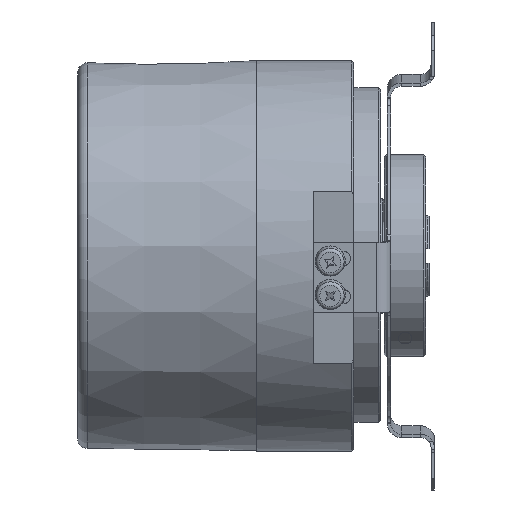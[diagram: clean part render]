
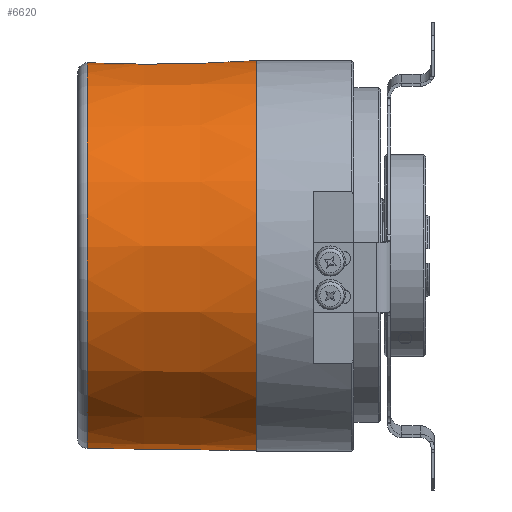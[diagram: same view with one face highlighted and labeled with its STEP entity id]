
A CAD part, front view. The second image highlights one B-rep face of the part: STEP entity #6620.
In plain terms, the highlighted conical face has half-angle 0.75 degrees and reference radius 29 mm.
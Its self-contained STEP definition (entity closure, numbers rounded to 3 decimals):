
#172 = CIRCLE ( 'NONE', #11944, 28.672 ) ;
#532 = CARTESIAN_POINT ( 'NONE',  ( -7.498, 22.099, 18.474 ) ) ;
#771 = CARTESIAN_POINT ( 'NONE',  ( -17.52, 25.743, -12.626 ) ) ;
#903 = AXIS2_PLACEMENT_3D ( 'NONE', #2605, #12542, #4019 ) ;
#1957 = CARTESIAN_POINT ( 'NONE',  ( -14.179, 21.982, 18.477 ) ) ;
#2285 = CARTESIAN_POINT ( 'NONE',  ( -14.52, 25.793, -12.612 ) ) ;
#2320 = CARTESIAN_POINT ( 'NONE',  ( 7.5, 0., 0. ) ) ;
#2605 = CARTESIAN_POINT ( 'NONE',  ( 7.5, 0., 0. ) ) ;
#2979 = CARTESIAN_POINT ( 'NONE',  ( 7.5, 22.36, 18.467 ) ) ;
#3211 = VERTEX_POINT ( 'NONE', #9729 ) ;
#3680 = CARTESIAN_POINT ( 'NONE',  ( -6.521, 25.928, -12.575 ) ) ;
#3710 = DIRECTION ( 'NONE',  ( 1., 0., 0. ) ) ;
#3970 = VERTEX_POINT ( 'NONE', #13544 ) ;
#4019 = DIRECTION ( 'NONE',  ( 0., 0.993, 0.122 ) ) ;
#4335 = ORIENTED_EDGE ( 'NONE', *, *, #17892, .T. ) ;
#4377 = ORIENTED_EDGE ( 'NONE', *, *, #6089, .T. ) ;
#4990 = DIRECTION ( 'NONE',  ( 1., 0., 0. ) ) ;
#5061 = FACE_OUTER_BOUND ( 'NONE', #16809, .T. ) ;
#5091 = CARTESIAN_POINT ( 'NONE',  ( 0.819, 26.051, -12.54 ) ) ;
#5969 = VERTEX_POINT ( 'NONE', #2979 ) ;
#6089 = EDGE_CURVE ( 'NONE', #3970, #13573, #13271, .T. ) ;
#6543 = CARTESIAN_POINT ( 'NONE',  ( 7.5, 26.163, -12.509 ) ) ;
#6620 = ADVANCED_FACE ( 'NONE', ( #5061 ), #10410, .T. ) ;
#7619 = CARTESIAN_POINT ( 'NONE',  ( 4.5, 22.308, 18.469 ) ) ;
#7915 = CARTESIAN_POINT ( 'NONE',  ( -16.52, 25.76, -12.622 ) ) ;
#8123 = EDGE_CURVE ( 'NONE', #3211, #3970, #172, .T. ) ;
#8794 = DIRECTION ( 'NONE',  ( 0., -0.993, -0.122 ) ) ;
#9023 = CARTESIAN_POINT ( 'NONE',  ( -3.498, 22.169, 18.472 ) ) ;
#9729 = CARTESIAN_POINT ( 'NONE',  ( -17.52, 21.923, 18.479 ) ) ;
#10410 = CONICAL_SURFACE ( 'NONE', #11085, 29., 0.013 ) ;
#10453 = CARTESIAN_POINT ( 'NONE',  ( -10.838, 22.04, 18.476 ) ) ;
#10787 = CARTESIAN_POINT ( 'NONE',  ( -15.52, 25.776, -12.617 ) ) ;
#11085 = AXIS2_PLACEMENT_3D ( 'NONE', #2320, #3710, #8794 ) ;
#11129 = CIRCLE ( 'NONE', #903, 29. ) ;
#11378 = ORIENTED_EDGE ( 'NONE', *, *, #12059, .T. ) ;
#11396 = B_SPLINE_CURVE_WITH_KNOTS ( 'NONE', 3,
 ( #13263, #13206, #16102, #7619, #17535, #9023, #532, #10453, #1957, #11886 ),
 .UNSPECIFIED., .F., .F.,
 ( 4, 3, 3, 4 ),
 ( 0., 0.003, 0.015, 0.025 ),
 .UNSPECIFIED. ) ;
#11886 = CARTESIAN_POINT ( 'NONE',  ( -17.52, 21.923, 18.479 ) ) ;
#11944 = AXIS2_PLACEMENT_3D ( 'NONE', #13522, #4990, #14977 ) ;
#12059 = EDGE_CURVE ( 'NONE', #5969, #3211, #11396, .T. ) ;
#12181 = CARTESIAN_POINT ( 'NONE',  ( -10.521, 25.861, -12.593 ) ) ;
#12542 = DIRECTION ( 'NONE',  ( -1., 0., 0. ) ) ;
#13206 = CARTESIAN_POINT ( 'NONE',  ( 6.5, 22.343, 18.468 ) ) ;
#13263 = CARTESIAN_POINT ( 'NONE',  ( 7.5, 22.36, 18.467 ) ) ;
#13271 = B_SPLINE_CURVE_WITH_KNOTS ( 'NONE', 3,
 ( #771, #7915, #10787, #2285, #12181, #3680, #13635, #5091, #15071, #6543 ),
 .UNSPECIFIED., .F., .F.,
 ( 4, 3, 3, 4 ),
 ( 0., 0.003, 0.015, 0.025 ),
 .UNSPECIFIED. ) ;
#13522 = CARTESIAN_POINT ( 'NONE',  ( -17.52, 0., 0. ) ) ;
#13544 = CARTESIAN_POINT ( 'NONE',  ( -17.52, 25.743, -12.626 ) ) ;
#13573 = VERTEX_POINT ( 'NONE', #17963 ) ;
#13635 = CARTESIAN_POINT ( 'NONE',  ( -2.522, 25.995, -12.556 ) ) ;
#14977 = DIRECTION ( 'NONE',  ( 0., 0.993, 0.122 ) ) ;
#15071 = CARTESIAN_POINT ( 'NONE',  ( 4.159, 26.107, -12.525 ) ) ;
#16102 = CARTESIAN_POINT ( 'NONE',  ( 5.5, 22.325, 18.468 ) ) ;
#16179 = ORIENTED_EDGE ( 'NONE', *, *, #8123, .T. ) ;
#16809 = EDGE_LOOP ( 'NONE', ( #4335, #11378, #16179, #4377 ) ) ;
#17535 = CARTESIAN_POINT ( 'NONE',  ( 0.501, 22.238, 18.47 ) ) ;
#17892 = EDGE_CURVE ( 'NONE', #13573, #5969, #11129, .T. ) ;
#17963 = CARTESIAN_POINT ( 'NONE',  ( 7.5, 26.163, -12.509 ) ) ;
